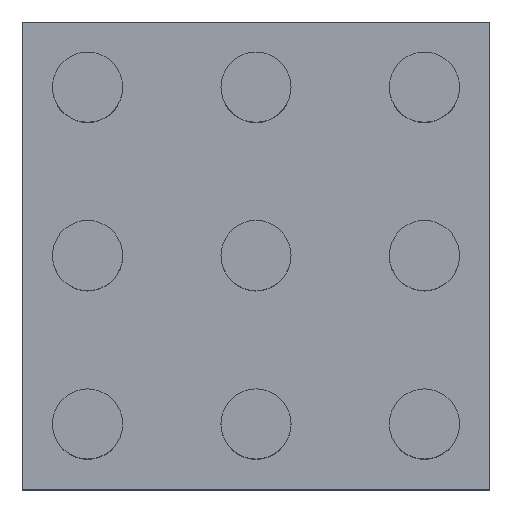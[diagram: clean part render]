
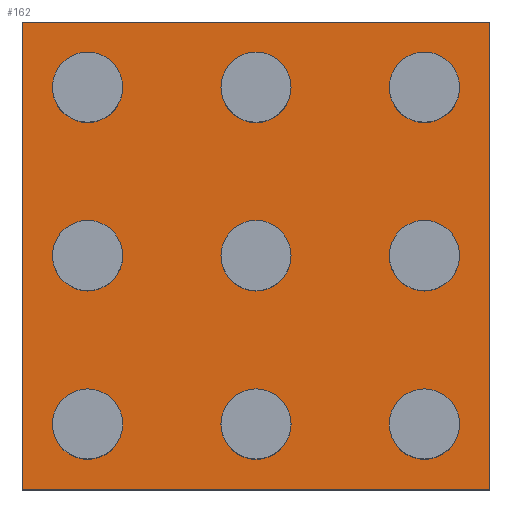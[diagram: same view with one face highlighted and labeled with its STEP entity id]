
A CAD part, top view. The second image highlights one B-rep face of the part: STEP entity #162.
In plain terms, the highlighted planar face has unit normal (0, 0, 1).
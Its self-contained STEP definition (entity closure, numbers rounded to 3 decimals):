
#100=PLANE('',#418);
#124=LINE('',#572,#136);
#128=LINE('',#581,#140);
#131=LINE('',#587,#143);
#134=LINE('',#593,#146);
#136=VECTOR('',#484,1.);
#140=VECTOR('',#490,1.);
#143=VECTOR('',#495,1.);
#146=VECTOR('',#500,1.);
#162=ADVANCED_FACE('',(#199,#200,#201,#202,#203,#204,#205,#206,#207,#208),
#100,.T.);
#199=FACE_BOUND('',#232,.T.);
#200=FACE_BOUND('',#233,.T.);
#201=FACE_BOUND('',#234,.T.);
#202=FACE_BOUND('',#235,.T.);
#203=FACE_BOUND('',#236,.T.);
#204=FACE_BOUND('',#237,.T.);
#205=FACE_BOUND('',#238,.T.);
#206=FACE_BOUND('',#239,.T.);
#207=FACE_BOUND('',#240,.T.);
#208=FACE_BOUND('',#241,.T.);
#232=EDGE_LOOP('',(#289));
#233=EDGE_LOOP('',(#290));
#234=EDGE_LOOP('',(#291));
#235=EDGE_LOOP('',(#292));
#236=EDGE_LOOP('',(#293));
#237=EDGE_LOOP('',(#294));
#238=EDGE_LOOP('',(#295));
#239=EDGE_LOOP('',(#296));
#240=EDGE_LOOP('',(#297));
#241=EDGE_LOOP('',(#298,#299,#300,#301));
#289=ORIENTED_EDGE('',*,*,#353,.F.);
#290=ORIENTED_EDGE('',*,*,#351,.F.);
#291=ORIENTED_EDGE('',*,*,#349,.F.);
#292=ORIENTED_EDGE('',*,*,#347,.F.);
#293=ORIENTED_EDGE('',*,*,#345,.F.);
#294=ORIENTED_EDGE('',*,*,#343,.F.);
#295=ORIENTED_EDGE('',*,*,#341,.F.);
#296=ORIENTED_EDGE('',*,*,#339,.F.);
#297=ORIENTED_EDGE('',*,*,#337,.F.);
#298=ORIENTED_EDGE('',*,*,#355,.T.);
#299=ORIENTED_EDGE('',*,*,#359,.T.);
#300=ORIENTED_EDGE('',*,*,#362,.T.);
#301=ORIENTED_EDGE('',*,*,#365,.T.);
#311=VERTEX_POINT('',#528);
#313=VERTEX_POINT('',#533);
#315=VERTEX_POINT('',#538);
#317=VERTEX_POINT('',#543);
#319=VERTEX_POINT('',#548);
#321=VERTEX_POINT('',#553);
#323=VERTEX_POINT('',#558);
#325=VERTEX_POINT('',#563);
#327=VERTEX_POINT('',#568);
#329=VERTEX_POINT('',#573);
#330=VERTEX_POINT('',#574);
#333=VERTEX_POINT('',#582);
#335=VERTEX_POINT('',#588);
#337=EDGE_CURVE('',#311,#311,#367,.T.);
#339=EDGE_CURVE('',#313,#313,#369,.T.);
#341=EDGE_CURVE('',#315,#315,#371,.T.);
#343=EDGE_CURVE('',#317,#317,#373,.T.);
#345=EDGE_CURVE('',#319,#319,#375,.T.);
#347=EDGE_CURVE('',#321,#321,#377,.T.);
#349=EDGE_CURVE('',#323,#323,#379,.T.);
#351=EDGE_CURVE('',#325,#325,#381,.T.);
#353=EDGE_CURVE('',#327,#327,#383,.T.);
#355=EDGE_CURVE('',#329,#330,#124,.T.);
#359=EDGE_CURVE('',#330,#333,#128,.T.);
#362=EDGE_CURVE('',#333,#335,#131,.T.);
#365=EDGE_CURVE('',#335,#329,#134,.T.);
#367=CIRCLE('',#386,0.75);
#369=CIRCLE('',#389,0.75);
#371=CIRCLE('',#392,0.75);
#373=CIRCLE('',#395,0.75);
#375=CIRCLE('',#398,0.75);
#377=CIRCLE('',#401,0.75);
#379=CIRCLE('',#404,0.75);
#381=CIRCLE('',#407,0.75);
#383=CIRCLE('',#410,0.75);
#386=AXIS2_PLACEMENT_3D('',#527,#430,#431);
#389=AXIS2_PLACEMENT_3D('',#532,#436,#437);
#392=AXIS2_PLACEMENT_3D('',#537,#442,#443);
#395=AXIS2_PLACEMENT_3D('',#542,#448,#449);
#398=AXIS2_PLACEMENT_3D('',#547,#454,#455);
#401=AXIS2_PLACEMENT_3D('',#552,#460,#461);
#404=AXIS2_PLACEMENT_3D('',#557,#466,#467);
#407=AXIS2_PLACEMENT_3D('',#562,#472,#473);
#410=AXIS2_PLACEMENT_3D('',#567,#478,#479);
#418=AXIS2_PLACEMENT_3D('',#597,#506,#507);
#430=DIRECTION('',(0.,0.,1.));
#431=DIRECTION('',(1.,0.,0.));
#436=DIRECTION('',(0.,0.,1.));
#437=DIRECTION('',(1.,0.,0.));
#442=DIRECTION('',(0.,0.,1.));
#443=DIRECTION('',(1.,0.,0.));
#448=DIRECTION('',(0.,0.,1.));
#449=DIRECTION('',(1.,0.,0.));
#454=DIRECTION('',(0.,0.,1.));
#455=DIRECTION('',(1.,0.,0.));
#460=DIRECTION('',(0.,0.,1.));
#461=DIRECTION('',(1.,0.,0.));
#466=DIRECTION('',(0.,0.,1.));
#467=DIRECTION('',(1.,0.,0.));
#472=DIRECTION('',(0.,0.,1.));
#473=DIRECTION('',(1.,0.,0.));
#478=DIRECTION('',(0.,0.,1.));
#479=DIRECTION('',(1.,0.,0.));
#484=DIRECTION('',(0.,1.,0.));
#490=DIRECTION('',(-1.,0.,0.));
#495=DIRECTION('',(0.,-1.,0.));
#500=DIRECTION('',(1.,0.,0.));
#506=DIRECTION('',(0.,0.,1.));
#507=DIRECTION('',(1.,0.,0.));
#527=CARTESIAN_POINT('',(0.,3.6,0.));
#528=CARTESIAN_POINT('',(0.75,3.6,0.));
#532=CARTESIAN_POINT('',(7.2,0.,0.));
#533=CARTESIAN_POINT('',(7.95,0.,0.));
#537=CARTESIAN_POINT('',(3.6,7.2,0.));
#538=CARTESIAN_POINT('',(4.35,7.2,0.));
#542=CARTESIAN_POINT('',(3.6,0.,0.));
#543=CARTESIAN_POINT('',(4.35,0.,0.));
#547=CARTESIAN_POINT('',(3.6,3.6,0.));
#548=CARTESIAN_POINT('',(4.35,3.6,0.));
#552=CARTESIAN_POINT('',(0.,7.2,0.));
#553=CARTESIAN_POINT('',(0.75,7.2,0.));
#557=CARTESIAN_POINT('',(7.2,3.6,0.));
#558=CARTESIAN_POINT('',(7.95,3.6,0.));
#562=CARTESIAN_POINT('',(0.,0.,0.));
#563=CARTESIAN_POINT('',(0.75,0.,0.));
#567=CARTESIAN_POINT('',(7.2,7.2,0.));
#568=CARTESIAN_POINT('',(7.95,7.2,0.));
#572=CARTESIAN_POINT('',(8.6,-1.4,0.));
#573=CARTESIAN_POINT('',(8.6,-1.4,0.));
#574=CARTESIAN_POINT('',(8.6,8.6,0.));
#581=CARTESIAN_POINT('',(8.6,8.6,0.));
#582=CARTESIAN_POINT('',(-1.4,8.6,0.));
#587=CARTESIAN_POINT('',(-1.4,8.6,0.));
#588=CARTESIAN_POINT('',(-1.4,-1.4,0.));
#593=CARTESIAN_POINT('',(-1.4,-1.4,0.));
#597=CARTESIAN_POINT('',(0.,0.,0.));
